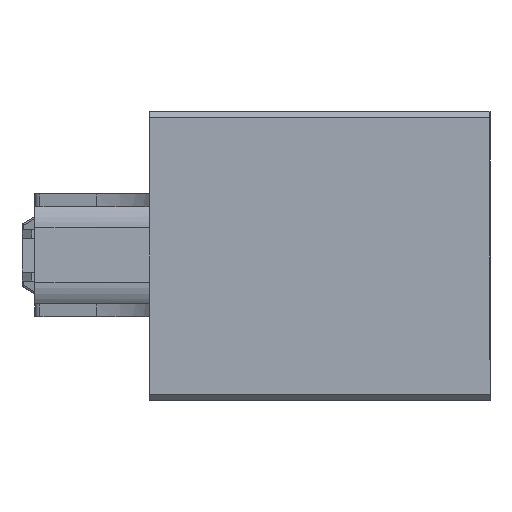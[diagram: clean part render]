
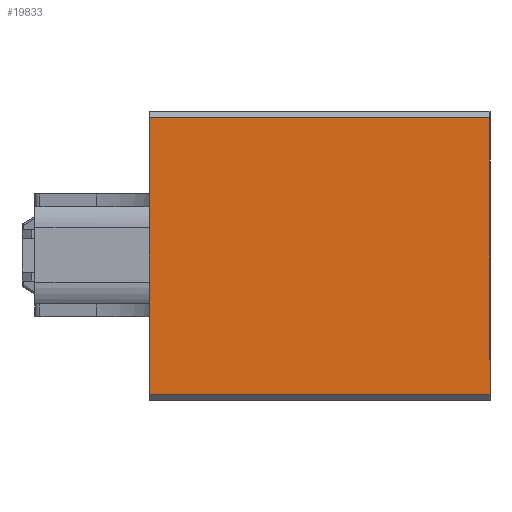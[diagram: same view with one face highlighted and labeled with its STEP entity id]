
A CAD part, front view. The second image highlights one B-rep face of the part: STEP entity #19833.
In plain terms, the highlighted planar face has unit normal (0, -1, 0).
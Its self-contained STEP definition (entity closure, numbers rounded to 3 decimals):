
#261 = CARTESIAN_POINT ( 'NONE',  ( 53., -22.5, 21.5 ) ) ;
#863 = CARTESIAN_POINT ( 'NONE',  ( 53., -22.5, -21.5 ) ) ;
#1622 = CARTESIAN_POINT ( 'NONE',  ( 0., -22.5, -21.5 ) ) ;
#1730 = ORIENTED_EDGE ( 'NONE', *, *, #7359, .F. ) ;
#1773 = PLANE ( 'NONE',  #11615 ) ;
#2267 = VERTEX_POINT ( 'NONE', #12487 ) ;
#3761 = LINE ( 'NONE', #14029, #10903 ) ;
#3961 = EDGE_CURVE ( 'NONE', #8671, #4549, #14564, .T. ) ;
#4284 = VECTOR ( 'NONE', #17367, 1000. ) ;
#4305 = DIRECTION ( 'NONE',  ( -1., 0., 0. ) ) ;
#4320 = LINE ( 'NONE', #863, #4284 ) ;
#4549 = VERTEX_POINT ( 'NONE', #15703 ) ;
#4554 = CARTESIAN_POINT ( 'NONE',  ( 53., -22.5, 21.5 ) ) ;
#4844 = LINE ( 'NONE', #11366, #16081 ) ;
#7359 = EDGE_CURVE ( 'NONE', #8671, #2267, #3761, .T. ) ;
#8492 = VERTEX_POINT ( 'NONE', #1622 ) ;
#8572 = CARTESIAN_POINT ( 'NONE',  ( 53., -22.5, 22.5 ) ) ;
#8671 = VERTEX_POINT ( 'NONE', #261 ) ;
#8919 = EDGE_CURVE ( 'NONE', #4549, #8492, #4844, .T. ) ;
#10037 = DIRECTION ( 'NONE',  ( 0., 0., 1. ) ) ;
#10903 = VECTOR ( 'NONE', #13922, 1000. ) ;
#11249 = ORIENTED_EDGE ( 'NONE', *, *, #8919, .T. ) ;
#11366 = CARTESIAN_POINT ( 'NONE',  ( 0., -22.5, 22.5 ) ) ;
#11399 = DIRECTION ( 'NONE',  ( 0., 0., -1. ) ) ;
#11615 = AXIS2_PLACEMENT_3D ( 'NONE', #8572, #19201, #10037 ) ;
#12487 = CARTESIAN_POINT ( 'NONE',  ( 53., -22.5, -21.5 ) ) ;
#13922 = DIRECTION ( 'NONE',  ( 0., 0., -1. ) ) ;
#14029 = CARTESIAN_POINT ( 'NONE',  ( 53., -22.5, 22.5 ) ) ;
#14564 = LINE ( 'NONE', #4554, #14590 ) ;
#14590 = VECTOR ( 'NONE', #4305, 1000. ) ;
#15669 = FACE_OUTER_BOUND ( 'NONE', #18407, .T. ) ;
#15703 = CARTESIAN_POINT ( 'NONE',  ( 0., -22.5, 21.5 ) ) ;
#16081 = VECTOR ( 'NONE', #11399, 1000. ) ;
#16184 = ORIENTED_EDGE ( 'NONE', *, *, #3961, .T. ) ;
#17367 = DIRECTION ( 'NONE',  ( 1., 0., 0. ) ) ;
#18056 = ORIENTED_EDGE ( 'NONE', *, *, #19045, .T. ) ;
#18407 = EDGE_LOOP ( 'NONE', ( #11249, #18056, #1730, #16184 ) ) ;
#19045 = EDGE_CURVE ( 'NONE', #8492, #2267, #4320, .T. ) ;
#19201 = DIRECTION ( 'NONE',  ( 0., 1., 0. ) ) ;
#19833 = ADVANCED_FACE ( 'NONE', ( #15669 ), #1773, .F. ) ;
